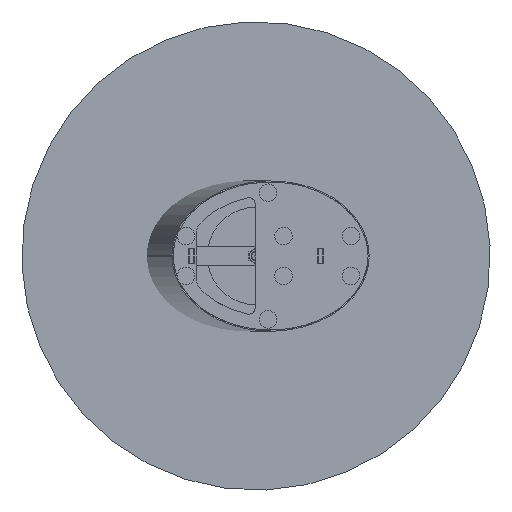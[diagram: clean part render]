
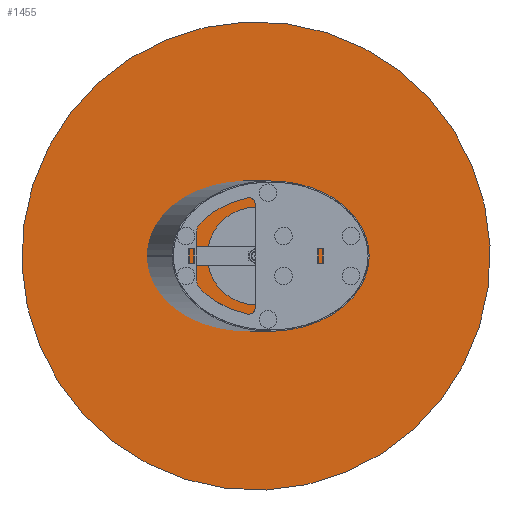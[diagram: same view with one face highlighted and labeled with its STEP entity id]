
A CAD part, front view. The second image highlights one B-rep face of the part: STEP entity #1455.
In plain terms, the highlighted planar face has unit normal (0, -1, 0).
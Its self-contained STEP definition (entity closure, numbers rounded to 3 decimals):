
#240 = CARTESIAN_POINT ( 'NONE',  ( 0., 0., -600. ) ) ;
#353 = CARTESIAN_POINT ( 'NONE',  ( 0., 0., 0. ) ) ;
#999 = PLANE ( 'NONE',  #4496 ) ;
#1297 = CARTESIAN_POINT ( 'NONE',  ( 0., 0., 0. ) ) ;
#1455 = ADVANCED_FACE ( 'NONE', ( #7519 ), #999, .T. ) ;
#1719 = EDGE_CURVE ( 'NONE', #7189, #3947, #5592, .T. ) ;
#1720 = DIRECTION ( 'NONE',  ( 0., -1., 0. ) ) ;
#1730 = CARTESIAN_POINT ( 'NONE',  ( 0., 0., 600. ) ) ;
#1934 = DIRECTION ( 'NONE',  ( 0., 0., -1. ) ) ;
#2405 = CARTESIAN_POINT ( 'NONE',  ( 0., 0., 0. ) ) ;
#2994 = CIRCLE ( 'NONE', #5196, 600. ) ;
#3734 = DIRECTION ( 'NONE',  ( 0., -1., 0. ) ) ;
#3947 = VERTEX_POINT ( 'NONE', #1730 ) ;
#4310 = ORIENTED_EDGE ( 'NONE', *, *, #1719, .T. ) ;
#4496 = AXIS2_PLACEMENT_3D ( 'NONE', #353, #1720, #5585 ) ;
#4497 = ORIENTED_EDGE ( 'NONE', *, *, #5828, .T. ) ;
#5023 = DIRECTION ( 'NONE',  ( 0., -1., 0. ) ) ;
#5196 = AXIS2_PLACEMENT_3D ( 'NONE', #1297, #3734, #1934 ) ;
#5585 = DIRECTION ( 'NONE',  ( 0., 0., -1. ) ) ;
#5592 = CIRCLE ( 'NONE', #7783, 600. ) ;
#5828 = EDGE_CURVE ( 'NONE', #3947, #7189, #2994, .T. ) ;
#6017 = EDGE_LOOP ( 'NONE', ( #4310, #4497 ) ) ;
#7189 = VERTEX_POINT ( 'NONE', #240 ) ;
#7519 = FACE_OUTER_BOUND ( 'NONE', #6017, .T. ) ;
#7648 = DIRECTION ( 'NONE',  ( 0., 0., -1. ) ) ;
#7783 = AXIS2_PLACEMENT_3D ( 'NONE', #2405, #5023, #7648 ) ;
